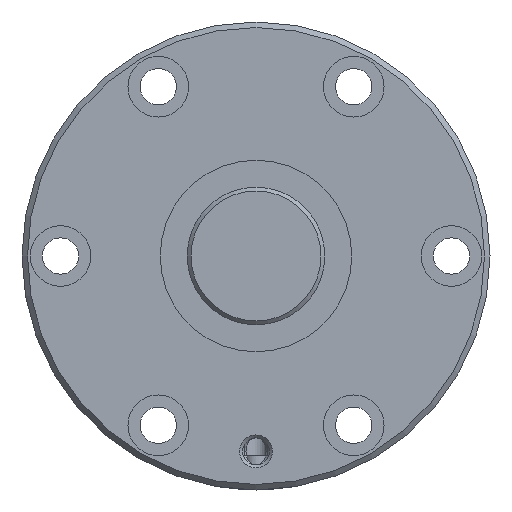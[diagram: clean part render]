
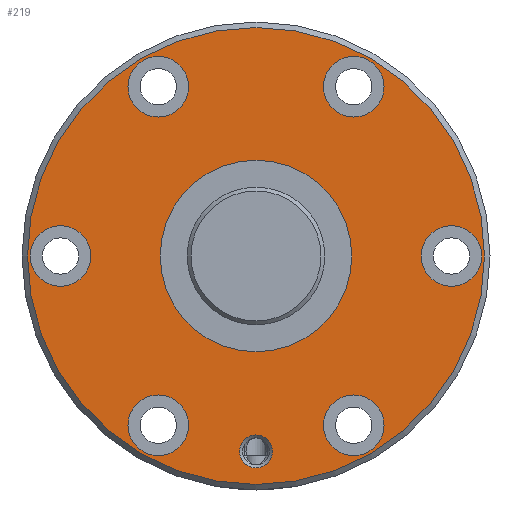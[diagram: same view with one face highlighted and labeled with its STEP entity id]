
A CAD part, left-side view. The second image highlights one B-rep face of the part: STEP entity #219.
In plain terms, the highlighted planar face has unit normal (-1, 0, 0).
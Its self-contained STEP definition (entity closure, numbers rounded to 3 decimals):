
#219 = ADVANCED_FACE( '', ( #390, #391, #392, #393, #394, #395, #396, #397, #398 ), #399, .T. );
#390 = FACE_BOUND( '', #629, .T. );
#391 = FACE_BOUND( '', #630, .T. );
#392 = FACE_BOUND( '', #631, .T. );
#393 = FACE_BOUND( '', #632, .T. );
#394 = FACE_BOUND( '', #633, .T. );
#395 = FACE_BOUND( '', #634, .T. );
#396 = FACE_BOUND( '', #635, .T. );
#397 = FACE_BOUND( '', #636, .T. );
#398 = FACE_OUTER_BOUND( '', #637, .T. );
#399 = PLANE( '', #638 );
#629 = EDGE_LOOP( '', ( #1059 ) );
#630 = EDGE_LOOP( '', ( #1060 ) );
#631 = EDGE_LOOP( '', ( #1061 ) );
#632 = EDGE_LOOP( '', ( #1062 ) );
#633 = EDGE_LOOP( '', ( #1063 ) );
#634 = EDGE_LOOP( '', ( #1064 ) );
#635 = EDGE_LOOP( '', ( #1065 ) );
#636 = EDGE_LOOP( '', ( #1066 ) );
#637 = EDGE_LOOP( '', ( #1067 ) );
#638 = AXIS2_PLACEMENT_3D( '', #1068, #1069, #1070 );
#1059 = ORIENTED_EDGE( '', *, *, #1342, .T. );
#1060 = ORIENTED_EDGE( '', *, *, #1343, .T. );
#1061 = ORIENTED_EDGE( '', *, *, #1265, .T. );
#1062 = ORIENTED_EDGE( '', *, *, #1341, .T. );
#1063 = ORIENTED_EDGE( '', *, *, #1344, .T. );
#1064 = ORIENTED_EDGE( '', *, *, #1345, .T. );
#1065 = ORIENTED_EDGE( '', *, *, #1346, .T. );
#1066 = ORIENTED_EDGE( '', *, *, #1347, .T. );
#1067 = ORIENTED_EDGE( '', *, *, #1348, .F. );
#1068 = CARTESIAN_POINT( '', ( 0., 41.5, 0. ) );
#1069 = DIRECTION( '', ( -1., 0., 0. ) );
#1070 = DIRECTION( '', ( 0., 0., 1. ) );
#1265 = EDGE_CURVE( '', #1419, #1419, #1420, .T. );
#1341 = EDGE_CURVE( '', #1549, #1549, #1550, .T. );
#1342 = EDGE_CURVE( '', #1551, #1551, #1552, .T. );
#1343 = EDGE_CURVE( '', #1553, #1553, #1554, .F. );
#1344 = EDGE_CURVE( '', #1555, #1555, #1556, .T. );
#1345 = EDGE_CURVE( '', #1557, #1557, #1558, .T. );
#1346 = EDGE_CURVE( '', #1559, #1559, #1560, .T. );
#1347 = EDGE_CURVE( '', #1561, #1561, #1562, .T. );
#1348 = EDGE_CURVE( '', #1563, #1563, #1564, .T. );
#1419 = VERTEX_POINT( '', #1776 );
#1420 = CIRCLE( '', #1777, 3. );
#1549 = VERTEX_POINT( '', #2150 );
#1550 = CIRCLE( '', #2151, 5.5 );
#1551 = VERTEX_POINT( '', #2152 );
#1552 = CIRCLE( '', #2153, 17.4 );
#1553 = VERTEX_POINT( '', #2154 );
#1554 = CIRCLE( '', #2155, 5.5 );
#1555 = VERTEX_POINT( '', #2156 );
#1556 = CIRCLE( '', #2157, 5.5 );
#1557 = VERTEX_POINT( '', #2158 );
#1558 = CIRCLE( '', #2159, 5.5 );
#1559 = VERTEX_POINT( '', #2160 );
#1560 = CIRCLE( '', #2161, 5.5 );
#1561 = VERTEX_POINT( '', #2162 );
#1562 = CIRCLE( '', #2163, 5.5 );
#1563 = VERTEX_POINT( '', #2164 );
#1564 = CIRCLE( '', #2165, 41.5 );
#1776 = CARTESIAN_POINT( '', ( 0., 0., -38.5 ) );
#1777 = AXIS2_PLACEMENT_3D( '', #2321, #2322, #2323 );
#2150 = CARTESIAN_POINT( '', ( 0., 17.75, 25.244 ) );
#2151 = AXIS2_PLACEMENT_3D( '', #2473, #2474, #2475 );
#2152 = CARTESIAN_POINT( '', ( 0., 0., -17.4 ) );
#2153 = AXIS2_PLACEMENT_3D( '', #2476, #2477, #2478 );
#2154 = CARTESIAN_POINT( '', ( 0., 35.5, 5.5 ) );
#2155 = AXIS2_PLACEMENT_3D( '', #2479, #2480, #2481 );
#2156 = CARTESIAN_POINT( '', ( 0., -17.75, -36.244 ) );
#2157 = AXIS2_PLACEMENT_3D( '', #2482, #2483, #2484 );
#2158 = CARTESIAN_POINT( '', ( 0., -17.75, 25.244 ) );
#2159 = AXIS2_PLACEMENT_3D( '', #2485, #2486, #2487 );
#2160 = CARTESIAN_POINT( '', ( 0., 17.75, -36.244 ) );
#2161 = AXIS2_PLACEMENT_3D( '', #2488, #2489, #2490 );
#2162 = CARTESIAN_POINT( '', ( 0., -35.5, -5.5 ) );
#2163 = AXIS2_PLACEMENT_3D( '', #2491, #2492, #2493 );
#2164 = CARTESIAN_POINT( '', ( 0., 0., -41.5 ) );
#2165 = AXIS2_PLACEMENT_3D( '', #2494, #2495, #2496 );
#2321 = CARTESIAN_POINT( '', ( 0., 0., -35.5 ) );
#2322 = DIRECTION( '', ( 1., 0., 0. ) );
#2323 = DIRECTION( '', ( 0., 0., -1. ) );
#2473 = CARTESIAN_POINT( '', ( 0., 17.75, 30.744 ) );
#2474 = DIRECTION( '', ( 1., 0., 0. ) );
#2475 = DIRECTION( '', ( 0., 0., -1. ) );
#2476 = CARTESIAN_POINT( '', ( 0., 0., 0. ) );
#2477 = DIRECTION( '', ( 1., 0., 0. ) );
#2478 = DIRECTION( '', ( 0., 0., -1. ) );
#2479 = CARTESIAN_POINT( '', ( 0., 35.5, 0. ) );
#2480 = DIRECTION( '', ( -1., 0., 0. ) );
#2481 = DIRECTION( '', ( 0., 0., 1. ) );
#2482 = CARTESIAN_POINT( '', ( 0., -17.75, -30.744 ) );
#2483 = DIRECTION( '', ( 1., 0., 0. ) );
#2484 = DIRECTION( '', ( 0., 0., -1. ) );
#2485 = CARTESIAN_POINT( '', ( 0., -17.75, 30.744 ) );
#2486 = DIRECTION( '', ( 1., 0., 0. ) );
#2487 = DIRECTION( '', ( 0., 0., -1. ) );
#2488 = CARTESIAN_POINT( '', ( 0., 17.75, -30.744 ) );
#2489 = DIRECTION( '', ( 1., 0., 0. ) );
#2490 = DIRECTION( '', ( 0., 0., -1. ) );
#2491 = CARTESIAN_POINT( '', ( 0., -35.5, 0. ) );
#2492 = DIRECTION( '', ( 1., 0., 0. ) );
#2493 = DIRECTION( '', ( 0., 0., -1. ) );
#2494 = CARTESIAN_POINT( '', ( 0., 0., 0. ) );
#2495 = DIRECTION( '', ( 1., 0., 0. ) );
#2496 = DIRECTION( '', ( 0., 0., -1. ) );
